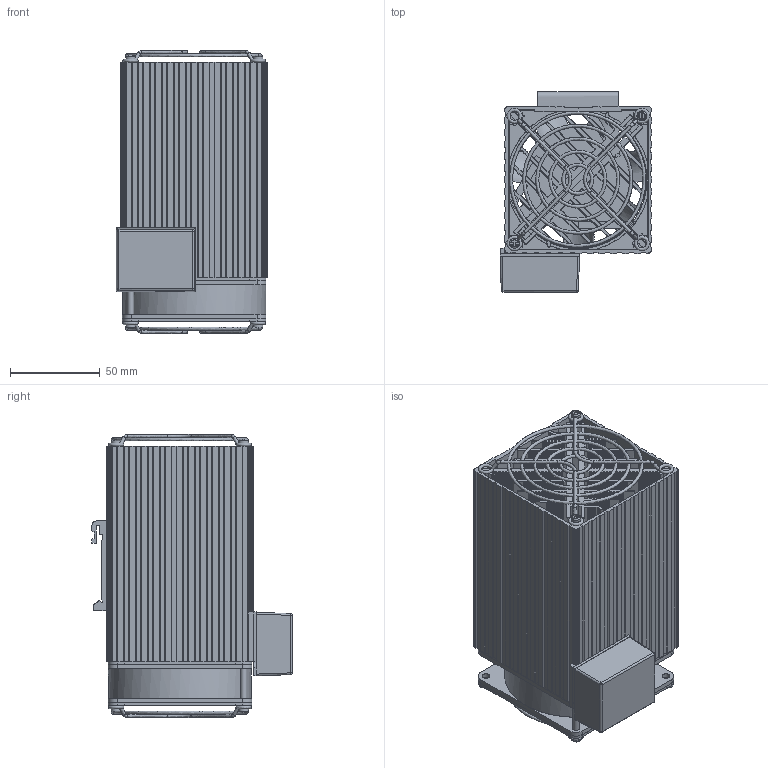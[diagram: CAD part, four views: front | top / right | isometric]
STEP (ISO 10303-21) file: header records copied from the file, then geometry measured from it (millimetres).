
FILE_DESCRIPTION(/* description */ (''),/* implementation_level */ '2;1');
FILE_NAME(/* name */ 'FSHT40~2',/* time_stamp */ '2023-01-24T17:04:33+01:00',/* author */ (''),/* organization */ (''),/* preprocessor_version */ 'ST-DEVELOPER v16.5',/* originating_system */ '',/* authorisation */ '');
FILE_SCHEMA (('AUTOMOTIVE_DESIGN'));
Products named in the file (29): Document; Blocco 28; Blocco 27; Blocco 26; Blocco 25; Blocco 24; Blocco 23; Blocco 22; Blocco 21; Blocco 20; Blocco 19; Blocco 18; Blocco 17; Blocco 16; Blocco 15; Blocco 14; Blocco 13; Blocco 12; Blocco 11; Blocco 10; Blocco 09; Blocco 08; Blocco 07; Blocco 06; Blocco 05; Blocco 04; Blocco 03; Blocco 02; Blocco 01
Assembly tree (28 placements, depth 2):
  Document
    Blocco 28
    Blocco 27
    Blocco 26
    Blocco 25
    Blocco 24
    Blocco 23
    Blocco 22
    Blocco 21
    Blocco 20
    Blocco 19
    Blocco 18
    Blocco 17
    Blocco 16
    Blocco 15
    Blocco 14
    Blocco 13
    Blocco 12
    Blocco 11
    Blocco 10
    Blocco 09
    Blocco 08
    Blocco 07
    Blocco 06
    Blocco 05
    Blocco 04
    Blocco 03
    Blocco 02
    Blocco 01
Bounding box: 84.45 x 111.7 x 157.7 mm (x, y, z)
Volume: 4016.3 mm3; surface area: 340302.7 mm2
Topology: 18 solids, 2554 shells, 2554 faces, 14593 edges, 14491 vertices
Faces by surface type: plane 2329, bspline 225
Entity records: 164224 total; most frequent: CARTESIAN_POINT 69304, ORIENTED_EDGE 14704, EDGE_CURVE 14593, VERTEX_POINT 14491, B_SPLINE_CURVE_WITH_KNOTS 7467, EDGE_LOOP 2594, COLOUR_RGB 2554, FILL_AREA_STYLE_COLOUR 2554
